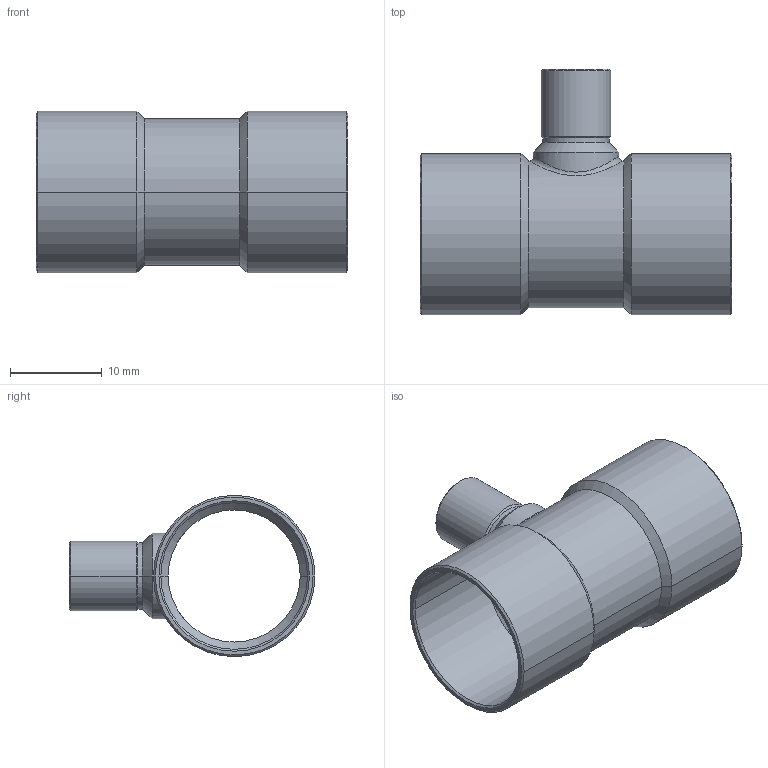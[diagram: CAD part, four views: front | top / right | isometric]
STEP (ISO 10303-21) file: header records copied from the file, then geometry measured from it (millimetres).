
FILE_DESCRIPTION((''),'2;1');
FILE_NAME('P:\Bouwmaten\z-maattekeningen 3D\5000\5130\513016616.stp','2005-10-26T11:53:16',('Kris'),(''),'Autodesk Inventor 8','Autodesk Inventor 8','');
FILE_SCHEMA(('AUTOMOTIVE_DESIGN { 1 0 10303 214 1 1 1 1 }'));
Length unit declared in the file: millimetre
Products named in the file (1): 513016616
Bounding box: 34 x 26.8 x 17.6 mm (x, y, z)
Volume: 1536.6 mm3; surface area: 4001.4 mm2
Topology: 1 solids, 1 shells, 57 faces, 124 edges, 68 vertices
Faces by surface type: cone 24, cylinder 20, bspline 10, plane 3
Entity records: 1996 total; most frequent: CARTESIAN_POINT 756, DIRECTION 264, ORIENTED_EDGE 248, EDGE_CURVE 124, AXIS2_PLACEMENT_3D 105, VERTEX_POINT 68, EDGE_LOOP 60, CIRCLE 57
